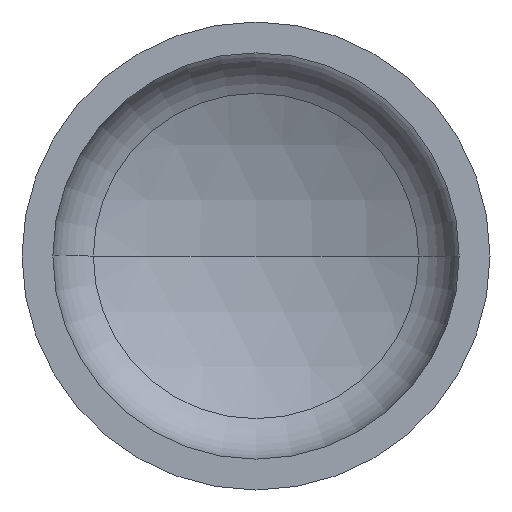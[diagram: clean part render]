
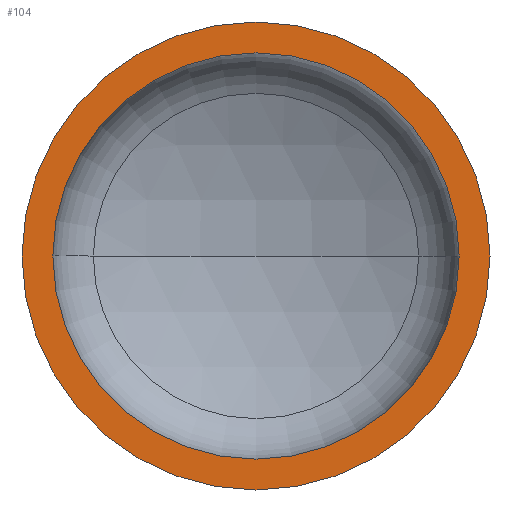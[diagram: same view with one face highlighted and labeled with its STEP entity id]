
A CAD part, front view. The second image highlights one B-rep face of the part: STEP entity #104.
In plain terms, the highlighted planar face has unit normal (0, -1, 0).
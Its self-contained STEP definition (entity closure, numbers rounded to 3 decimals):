
#14 = ORIENTED_EDGE ( 'NONE', *, *, #73, .T. ) ;
#25 = CIRCLE ( 'NONE', #53, 738. ) ;
#27 = AXIS2_PLACEMENT_3D ( 'NONE', #297, #119, #121 ) ;
#30 = AXIS2_PLACEMENT_3D ( 'NONE', #241, #35, #155 ) ;
#35 = DIRECTION ( 'NONE',  ( 0., 1., 0. ) ) ;
#38 = CARTESIAN_POINT ( 'NONE',  ( 738., 0., 0. ) ) ;
#47 = DIRECTION ( 'NONE',  ( 0., -1., 0. ) ) ;
#53 = AXIS2_PLACEMENT_3D ( 'NONE', #327, #353, #352 ) ;
#55 = VERTEX_POINT ( 'NONE', #235 ) ;
#56 = AXIS2_PLACEMENT_3D ( 'NONE', #157, #178, #180 ) ;
#63 = ORIENTED_EDGE ( 'NONE', *, *, #75, .F. ) ;
#73 = EDGE_CURVE ( 'NONE', #55, #100, #134, .T. ) ;
#75 = EDGE_CURVE ( 'NONE', #234, #183, #25, .T. ) ;
#100 = VERTEX_POINT ( 'NONE', #170 ) ;
#104 = ADVANCED_FACE ( 'NONE', ( #260, #343 ), #193, .F. ) ;
#119 = DIRECTION ( 'NONE',  ( 0., -1., 0. ) ) ;
#121 = DIRECTION ( 'NONE',  ( 1., 0., 0. ) ) ;
#134 = CIRCLE ( 'NONE', #56, 850. ) ;
#143 = AXIS2_PLACEMENT_3D ( 'NONE', #305, #47, #276 ) ;
#155 = DIRECTION ( 'NONE',  ( -1., 0., 0. ) ) ;
#157 = CARTESIAN_POINT ( 'NONE',  ( 0., 0., 0. ) ) ;
#170 = CARTESIAN_POINT ( 'NONE',  ( 850., 0., 0. ) ) ;
#178 = DIRECTION ( 'NONE',  ( 0., -1., 0. ) ) ;
#180 = DIRECTION ( 'NONE',  ( 1., 0., 0. ) ) ;
#183 = VERTEX_POINT ( 'NONE', #209 ) ;
#193 = PLANE ( 'NONE',  #30 ) ;
#209 = CARTESIAN_POINT ( 'NONE',  ( -738., 0., 0. ) ) ;
#221 = CIRCLE ( 'NONE', #143, 850. ) ;
#234 = VERTEX_POINT ( 'NONE', #38 ) ;
#235 = CARTESIAN_POINT ( 'NONE',  ( -850., 0., 0. ) ) ;
#241 = CARTESIAN_POINT ( 'NONE',  ( -850., 0., 0. ) ) ;
#260 = FACE_BOUND ( 'NONE', #356, .T. ) ;
#275 = ORIENTED_EDGE ( 'NONE', *, *, #319, .F. ) ;
#276 = DIRECTION ( 'NONE',  ( 1., 0., 0. ) ) ;
#297 = CARTESIAN_POINT ( 'NONE',  ( 0., 0., 0. ) ) ;
#305 = CARTESIAN_POINT ( 'NONE',  ( 0., 0., 0. ) ) ;
#312 = CIRCLE ( 'NONE', #27, 738. ) ;
#318 = EDGE_LOOP ( 'NONE', ( #330, #14 ) ) ;
#319 = EDGE_CURVE ( 'NONE', #183, #234, #312, .T. ) ;
#327 = CARTESIAN_POINT ( 'NONE',  ( 0., 0., 0. ) ) ;
#330 = ORIENTED_EDGE ( 'NONE', *, *, #357, .T. ) ;
#343 = FACE_OUTER_BOUND ( 'NONE', #318, .T. ) ;
#352 = DIRECTION ( 'NONE',  ( 1., 0., 0. ) ) ;
#353 = DIRECTION ( 'NONE',  ( 0., -1., 0. ) ) ;
#356 = EDGE_LOOP ( 'NONE', ( #63, #275 ) ) ;
#357 = EDGE_CURVE ( 'NONE', #100, #55, #221, .T. ) ;
